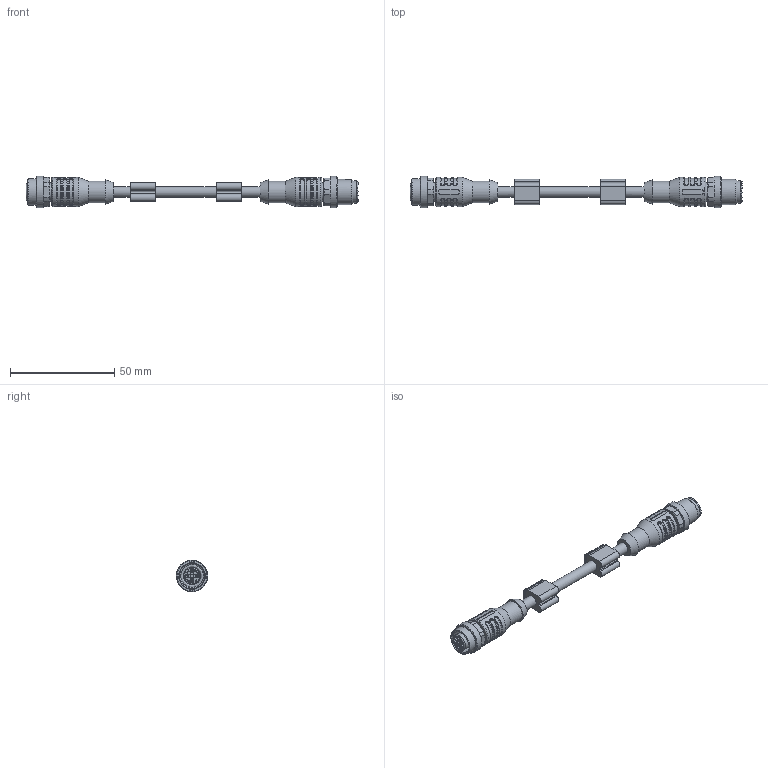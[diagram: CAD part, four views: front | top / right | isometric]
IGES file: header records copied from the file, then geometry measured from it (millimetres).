
Global section: file name: 153-13647_L8_L4-xM-PUR; native system: Autodesk Inventor 2018; preprocessor: unknown; date: 20191106.122159; units: millimetre
Bounding box: 158.97 x 15 x 14.99 mm (x, y, z)
Volume: 13003.5 mm3; surface area: 7726.6 mm2
Topology: 1 solids, 1 shells, 619 faces, 1564 edges, 1014 vertices
Faces by surface type: bspline 619
